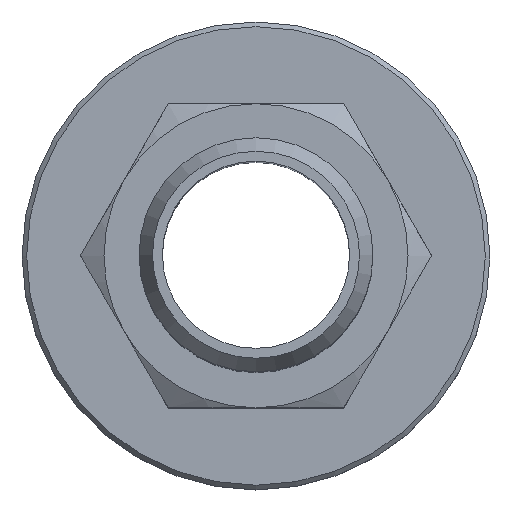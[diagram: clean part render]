
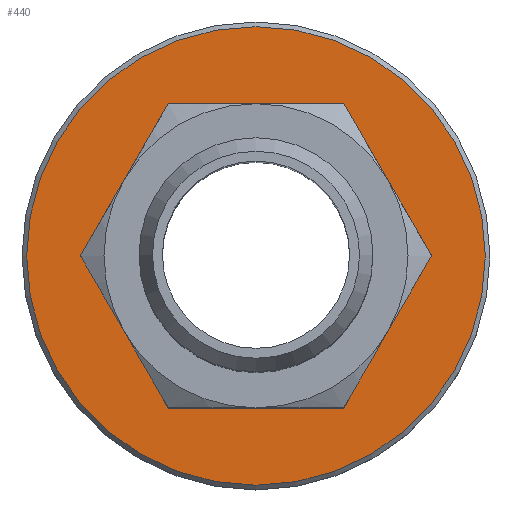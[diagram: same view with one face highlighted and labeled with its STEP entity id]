
A CAD part, top view. The second image highlights one B-rep face of the part: STEP entity #440.
In plain terms, the highlighted planar face has unit normal (0, 0, 1).
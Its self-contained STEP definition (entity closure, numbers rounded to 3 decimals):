
#440=ADVANCED_FACE('', (#450,#460), #470, .T.);
#2640=AXIS2_PLACEMENT_3D('Ax2Pl3d', #2650, #2660, #2670);
#2680=AXIS2_PLACEMENT_3D('Ax2Pl3d', #2690, #2700, #2710);
#6230=CARTESIAN_POINT('', (13.547,23.698,23.907));
#6240=CARTESIAN_POINT('', (13.547,23.698,23.907));
#6250=CARTESIAN_POINT('', (9.795,17.198,23.907));
#6290=CARTESIAN_POINT('', (21.053,23.698,23.907));
#6300=CARTESIAN_POINT('', (21.053,23.698,23.907));
#6330=CARTESIAN_POINT('', (24.806,17.198,23.907));
#6340=CARTESIAN_POINT('', (24.806,17.198,23.907));
#6370=CARTESIAN_POINT('', (21.053,10.698,23.907));
#6380=CARTESIAN_POINT('', (21.053,10.698,23.907));
#6410=CARTESIAN_POINT('', (13.547,10.698,23.907));
#6420=CARTESIAN_POINT('', (13.547,10.698,23.907));
#6430=CARTESIAN_POINT('', (9.795,17.198,23.907));
#2650=CARTESIAN_POINT('HicPkt', (7.5,17.198,
23.907));
#2690=CARTESIAN_POINT('HicPkt', (17.3,17.198,
23.907));
#6470=CARTESIAN_POINT('', (17.3,26.998,23.907));
#6850=CIRCLE('Circle', #2680, 9.8);
#9100=DIRECTION('', (0.5,0.866,0.));
#9130=DIRECTION('', (1.,0.,0.));
#9150=DIRECTION('', (0.5,-0.866,0.));
#9170=DIRECTION('', (-0.5,-0.866,0.));
#9190=DIRECTION('', (-1.,0.,0.));
#9200=DIRECTION('', (-0.5,0.866,0.));
#2660=DIRECTION('Axis', (0.,0.,1.));
#2670=DIRECTION('RefDirection', (1.,0.,-0.));
#2700=DIRECTION('Axis', (0.,0.,1.));
#2710=DIRECTION('RefDirection', (1.,0.,-0.));
#9420=EDGE_CURVE('', #9430, #9400, #9440, .T.);
#9510=EDGE_CURVE('', #9400, #9490, #9520, .T.);
#9590=EDGE_CURVE('', #9490, #9570, #9600, .T.);
#9670=EDGE_CURVE('', #9570, #9650, #9680, .T.);
#9750=EDGE_CURVE('', #9650, #9730, #9760, .T.);
#9800=EDGE_CURVE('', #9730, #9430, #9810, .T.);
#9890=EDGE_CURVE('', #9900, #9900, #6850, .T.);
#11020=EDGE_LOOP('Edge_loop', (#11030));
#11040=EDGE_LOOP('Edge_loop', (#11050,#11060,#11070,#11080,#11090,
#11100));
#460=FACE_BOUND('', #11040, .T.);
#450=FACE_OUTER_BOUND('Face_outer_bound', #11020, .T.);
#9440=LINE('Line', #6240, #12980);
#9520=LINE('Line', #6300, #13010);
#9600=LINE('Line', #6340, #13030);
#9680=LINE('Line', #6380, #13050);
#9760=LINE('Line', #6420, #13070);
#9810=LINE('Line', #6430, #13080);
#11030=ORIENTED_EDGE('', *, *, #9890, .T.);
#11050=ORIENTED_EDGE('', *, *, #9800, .T.);
#11060=ORIENTED_EDGE('', *, *, #9420, .T.);
#11070=ORIENTED_EDGE('', *, *, #9510, .T.);
#11080=ORIENTED_EDGE('', *, *, #9590, .T.);
#11090=ORIENTED_EDGE('', *, *, #9670, .T.);
#11100=ORIENTED_EDGE('', *, *, #9750, .T.);
#470=PLANE('Plane', #2640);
#12980=VECTOR('', #9100, 7.506);
#13010=VECTOR('', #9130, 7.506);
#13030=VECTOR('', #9150, 7.506);
#13050=VECTOR('', #9170, 7.506);
#13070=VECTOR('', #9190, 7.506);
#13080=VECTOR('', #9200, 7.506);
#9400=VERTEX_POINT('', #6230);
#9430=VERTEX_POINT('', #6250);
#9490=VERTEX_POINT('', #6290);
#9570=VERTEX_POINT('', #6330);
#9650=VERTEX_POINT('', #6370);
#9730=VERTEX_POINT('', #6410);
#9900=VERTEX_POINT('', #6470);
